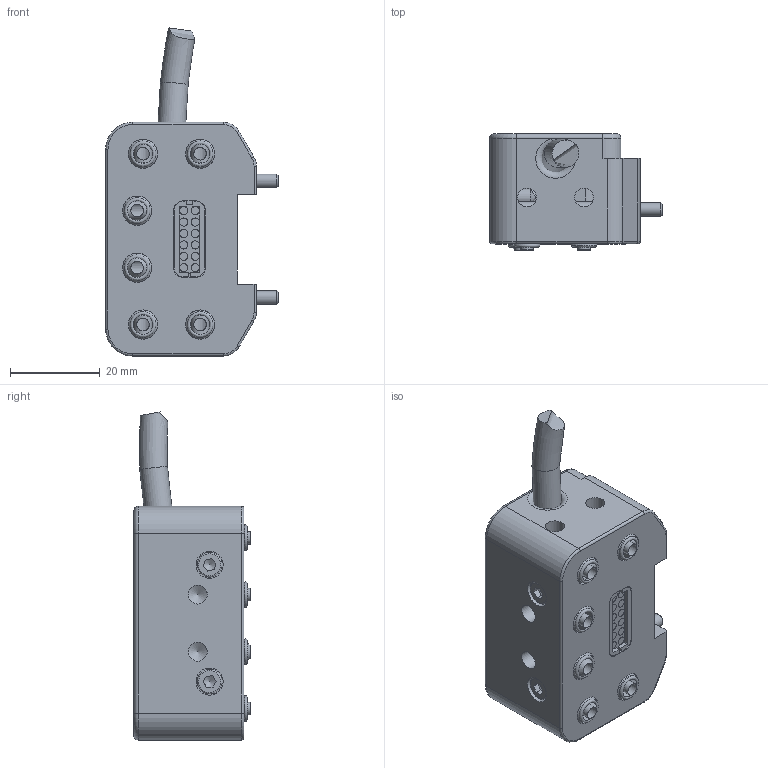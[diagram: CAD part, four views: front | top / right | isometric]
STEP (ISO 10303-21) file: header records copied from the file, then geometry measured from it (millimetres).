
FILE_DESCRIPTION(/* description */ (''),/* implementation_level */ '2;1');
FILE_NAME(/* name */ 'T:\CAD\Standard\SHW\SEK-P\SEK100\SEK100-6PM5-1FE12\G-SEK100-O-6PM5-1FE12-2000-OE.stp',/* time_stamp */ '2022-02-15T14:35:09+01:00',/* author */ ('vbednarz'),/* organization */ (''),/* preprocessor_version */ 'ST-DEVELOPER v17',/* originating_system */ 'Autodesk Inventor 2018',/* authorisation */ '');
FILE_SCHEMA (('AUTOMOTIVE_DESIGN { 1 0 10303 214 3 1 1 }'));
Length unit declared in the file: millimetre
Products named in the file (1): G-SEK100-O-6PM5-1FE12-300-M8.step
Bounding box: 38.4 x 25.85 x 72.99 mm (x, y, z)
Volume: 34630.4 mm3; surface area: 15386.5 mm2
Topology: 4 solids, 18 shells, 467 faces, 1255 edges, 847 vertices
Faces by surface type: plane 215, cylinder 156, cone 48, torus 31, bspline 17
Full cylindrical faces by diameter (mm): 1 x5, 1.35 x12, 1.8 x2, 1.83 x12, 2.02 x2, 2.05 x4, 2.5 x4, 2.8 x6, 2.9 x4, 3 x2, 3.4 x2, 4.2 x6, 4.5 x4, 5 x4, 5.5 x2, 5.8 x1, 6 x2, 6.2 x1, 6.5 x12
Entity records: 16628 total; most frequent: CARTESIAN_POINT 4046, DIRECTION 2594, ORIENTED_EDGE 2474, EDGE_CURVE 1237, AXIS2_PLACEMENT_3D 989, VERTEX_POINT 847, LINE 616, VECTOR 616
